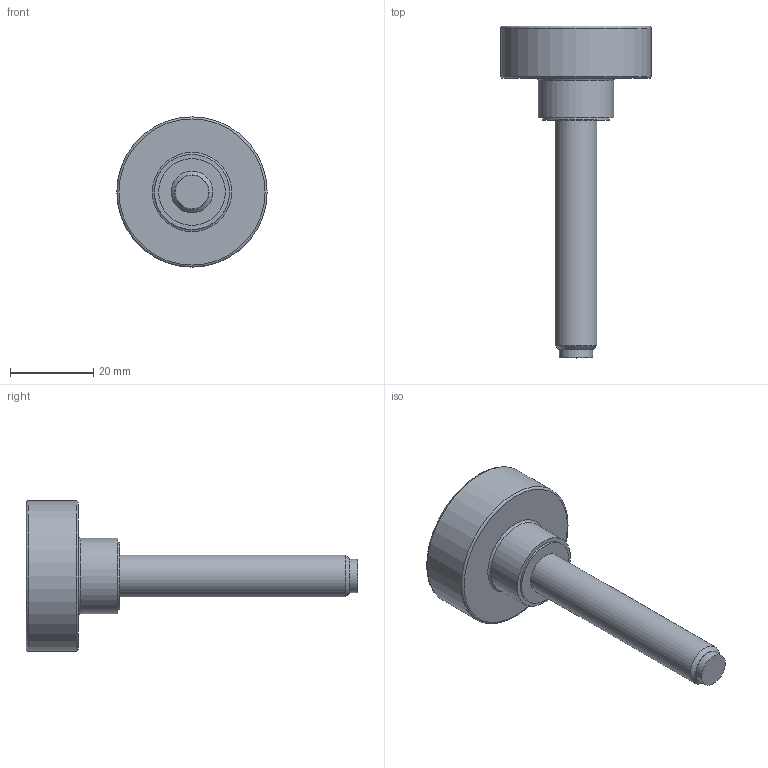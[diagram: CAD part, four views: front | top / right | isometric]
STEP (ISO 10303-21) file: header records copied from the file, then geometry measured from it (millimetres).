
FILE_DESCRIPTION( ( 'STEP AP203' ), '1' );
FILE_NAME( 'C:/Temp/Ganter_Step_05_03_2020/data/2_2/gn_421_10/Hollow knurled knob, with tip GN 421.10-M10-55-MS.stp', '2020-03-05T12:25:38', ( 'License CC BY-ND 4.0' ), ( 'CADENAS' ), ' ', 'PARTsolutions', ' ' );
FILE_SCHEMA( ( 'CONFIG_CONTROL_DESIGN' ) );
Length unit declared in the file: millimetre
Products named in the file (1): _Hollow knurled knob, with tip GN 421.10-M10-55-MS
Bounding box: 36 x 79.5 x 36 mm (x, y, z)
Volume: 13671.4 mm3; surface area: 6614.3 mm2
Topology: 1 solids, 1 shells, 19 faces, 30 edges, 19 vertices
Faces by surface type: plane 8, cylinder 7, torus 3, cone 1
Full cylindrical faces by diameter (mm): 8 x1, 10 x1, 14 x1, 16 x1, 18 x1, 31 x1, 36 x1
Entity records: 418 total; most frequent: DIRECTION 76, CARTESIAN_POINT 56, AXIS2_PLACEMENT_3D 38, EDGE_LOOP 36, ORIENTED_EDGE 36, FACE_OUTER_BOUND 29, ADVANCED_FACE 19, EDGE_CURVE 18
